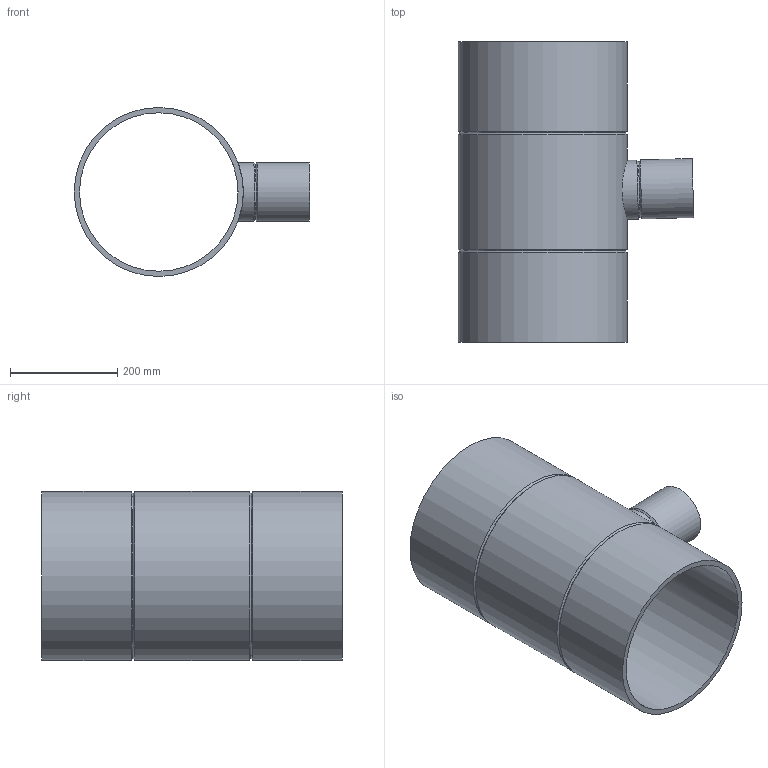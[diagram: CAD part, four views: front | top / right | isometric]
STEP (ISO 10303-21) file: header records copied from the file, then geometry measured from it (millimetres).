
FILE_DESCRIPTION(/* description */ (''),/* implementation_level */ '2;1');
FILE_NAME(/* name */ 'Z:\Geberit\Export\NewStep\372185.stp',/* time_stamp */ '2014-04-02T08:06:31+02:00',/* author */ ('nelson'),/* organization */ (''),/* preprocessor_version */ 'ST-DEVELOPER v15.2',/* originating_system */ 'Autodesk Inventor 2014',/* authorisation */ '');
FILE_SCHEMA (('AUTOMOTIVE_DESIGN { 1 0 10303 214 3 1 1 }'));
Length unit declared in the file: millimetre
Products named in the file (1): 372185
Bounding box: 438.84 x 560 x 315 mm (x, y, z)
Volume: 5337423.5 mm3; surface area: 1169653.6 mm2
Topology: 1 solids, 1 shells, 16 faces, 37 edges, 23 vertices
Faces by surface type: cylinder 7, cone 6, plane 3
Full cylindrical faces by diameter (mm): 101.4 x1, 110 x2, 295.4 x1, 315 x3
Entity records: 503 total; most frequent: CARTESIAN_POINT 181, DIRECTION 64, EDGE_LOOP 34, ORIENTED_EDGE 34, AXIS2_PLACEMENT_3D 32, FACE_BOUND 22, VERTEX_POINT 17, EDGE_CURVE 17
